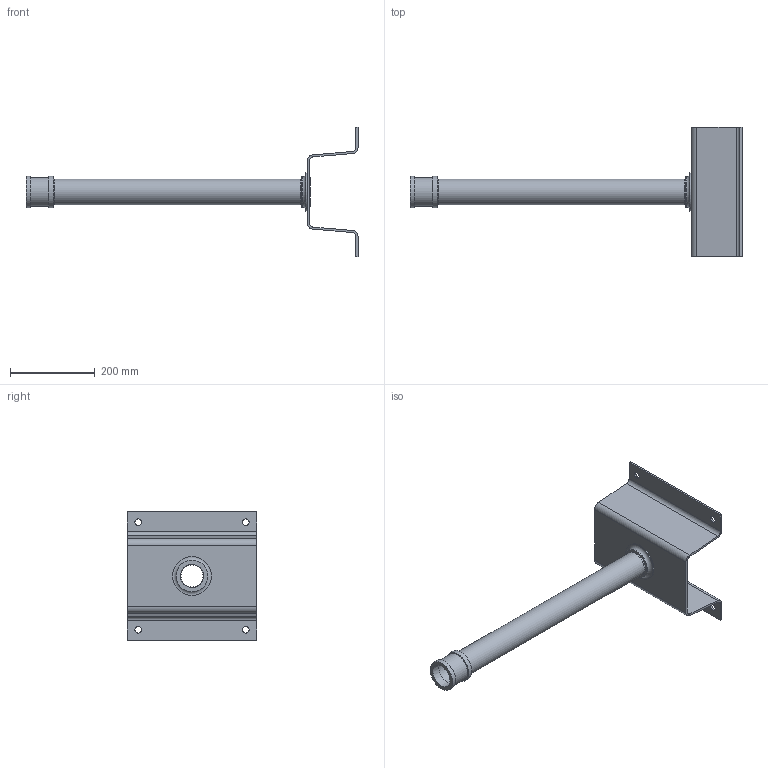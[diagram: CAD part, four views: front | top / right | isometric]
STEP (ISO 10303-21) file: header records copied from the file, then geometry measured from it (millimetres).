
FILE_DESCRIPTION(/* description */ (''),/* implementation_level */ '2;1');
FILE_NAME(/* name */ 'G:\PUBLIC\MKTG\Laura\WEBSITE PUMP MODEL STP\133172-01_PEDESTAL.stp',/* time_stamp */ '2017-07-11T10:44:19-05:00',/* author */ ('gdonbak'),/* organization */ (''),/* preprocessor_version */ 'ST-DEVELOPER v16.5',/* originating_system */ 'Autodesk Inventor 2017',/* authorisation */ '');
FILE_SCHEMA (('AUTOMOTIVE_DESIGN { 1 0 10303 214 3 1 1 }'));
Length unit declared in the file: inch
Products named in the file (1): 133172-01_Shrinkwrap_1
Bounding box: 784.09 x 304.8 x 304.8 mm (x, y, z)
Surface area: 568347.5 mm2 (no closed solid volume)
Topology: 0 solids, 4 shells, 51 faces, 114 edges, 74 vertices
Faces by surface type: plane 23, cylinder 22, cone 5, torus 1
Full cylindrical faces by diameter (mm): 15.748 x4, 52.502 x1, 55.368 x1, 60.325 x1, 68.072 x1, 68.326 x1, 69.85 x1, 71.12 x1, 75.184 x2, 91.186 x1
Entity records: 1459 total; most frequent: DIRECTION 248, CARTESIAN_POINT 220, ORIENTED_EDGE 188, AXIS2_PLACEMENT_3D 102, EDGE_CURVE 94, EDGE_LOOP 90, VERTEX_POINT 74, FACE_OUTER_BOUND 51
